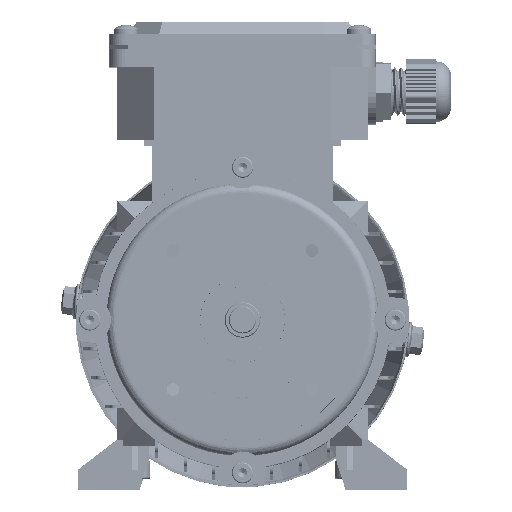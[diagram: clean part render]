
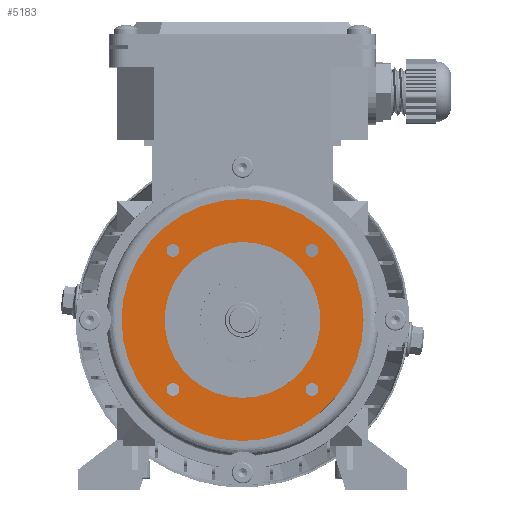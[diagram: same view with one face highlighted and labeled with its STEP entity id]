
A CAD part, top view. The second image highlights one B-rep face of the part: STEP entity #5183.
In plain terms, the highlighted planar face has unit normal (0, 0, 1).
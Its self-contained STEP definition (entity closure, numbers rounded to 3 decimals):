
#1494 = CIRCLE ( 'NONE', #99126, 2.1 ) ;
#1594 = VERTEX_POINT ( 'NONE', #66562 ) ;
#2495 = FACE_BOUND ( 'NONE', #78938, .T. ) ;
#2879 = CARTESIAN_POINT ( 'NONE',  ( 25.75, 0., 8. ) ) ;
#3184 = AXIS2_PLACEMENT_3D ( 'NONE', #69302, #6995, #79754 ) ;
#4220 = AXIS2_PLACEMENT_3D ( 'NONE', #103265, #40927, #113715 ) ;
#4970 = CIRCLE ( 'NONE', #29002, 25.75 ) ;
#5183 = ADVANCED_FACE ( 'NONE', ( #2495, #54474, #26873, #134337, #106603, #109867 ), #65141, .T. ) ;
#6355 = CARTESIAN_POINT ( 'NONE',  ( 0., 0., 8. ) ) ;
#6558 = CARTESIAN_POINT ( 'NONE',  ( -22.981, -22.981, 8. ) ) ;
#6938 = CIRCLE ( 'NONE', #24363, 25.75 ) ;
#6995 = DIRECTION ( 'NONE',  ( 0., 0., 1. ) ) ;
#7127 = EDGE_LOOP ( 'NONE', ( #108346, #114456 ) ) ;
#7908 = CIRCLE ( 'NONE', #61016, 2.1 ) ;
#8316 = CARTESIAN_POINT ( 'NONE',  ( 22.981, -22.981, 8. ) ) ;
#9097 = ORIENTED_EDGE ( 'NONE', *, *, #90234, .F. ) ;
#11600 = EDGE_CURVE ( 'NONE', #116968, #110063, #110086, .T. ) ;
#12910 = AXIS2_PLACEMENT_3D ( 'NONE', #50089, #122941, #60624 ) ;
#16110 = EDGE_CURVE ( 'NONE', #39242, #58556, #38285, .T. ) ;
#16787 = DIRECTION ( 'NONE',  ( 1., 0., 0. ) ) ;
#17004 = DIRECTION ( 'NONE',  ( 1., 0., 0. ) ) ;
#17647 = CARTESIAN_POINT ( 'NONE',  ( -22.981, -22.981, 8. ) ) ;
#18775 = DIRECTION ( 'NONE',  ( 1., 0., 0. ) ) ;
#20617 = ORIENTED_EDGE ( 'NONE', *, *, #97968, .F. ) ;
#20722 = CIRCLE ( 'NONE', #94222, 2.1 ) ;
#22278 = EDGE_LOOP ( 'NONE', ( #53289, #48872 ) ) ;
#22465 = ORIENTED_EDGE ( 'NONE', *, *, #84785, .F. ) ;
#22727 = EDGE_CURVE ( 'NONE', #1594, #114012, #7908, .T. ) ;
#24363 = AXIS2_PLACEMENT_3D ( 'NONE', #6355, #79123, #16787 ) ;
#24571 = CARTESIAN_POINT ( 'NONE',  ( 25.75, 0., 8. ) ) ;
#26873 = FACE_BOUND ( 'NONE', #119763, .T. ) ;
#26965 = CARTESIAN_POINT ( 'NONE',  ( 0., 0., 8. ) ) ;
#28112 = DIRECTION ( 'NONE',  ( 1., 0., 0. ) ) ;
#29002 = AXIS2_PLACEMENT_3D ( 'NONE', #26965, #99701, #37395 ) ;
#29915 = EDGE_CURVE ( 'NONE', #108041, #133633, #6938, .T. ) ;
#30388 = DIRECTION ( 'NONE',  ( 0., 0., 1. ) ) ;
#30400 = CIRCLE ( 'NONE', #98349, 40. ) ;
#31382 = CIRCLE ( 'NONE', #3184, 2.1 ) ;
#32056 = CARTESIAN_POINT ( 'NONE',  ( -25.75, 0., 8. ) ) ;
#32065 = DIRECTION ( 'NONE',  ( 0., 0., 1. ) ) ;
#35953 = CARTESIAN_POINT ( 'NONE',  ( -25.081, 22.981, 8. ) ) ;
#37052 = DIRECTION ( 'NONE',  ( 0., 0., 1. ) ) ;
#37395 = DIRECTION ( 'NONE',  ( 1., 0., 0. ) ) ;
#38001 = EDGE_CURVE ( 'NONE', #71090, #62284, #64298, .T. ) ;
#38285 = CIRCLE ( 'NONE', #55194, 2.1 ) ;
#39242 = VERTEX_POINT ( 'NONE', #108768 ) ;
#40927 = DIRECTION ( 'NONE',  ( 0., 0., 1. ) ) ;
#44641 = EDGE_LOOP ( 'NONE', ( #9097, #22465 ) ) ;
#44643 = DIRECTION ( 'NONE',  ( 0., 0., 1. ) ) ;
#45069 = ORIENTED_EDGE ( 'NONE', *, *, #16110, .F. ) ;
#48872 = ORIENTED_EDGE ( 'NONE', *, *, #22727, .F. ) ;
#50089 = CARTESIAN_POINT ( 'NONE',  ( 22.981, 22.981, 8. ) ) ;
#52618 = CARTESIAN_POINT ( 'NONE',  ( 0., 0., 8. ) ) ;
#53289 = ORIENTED_EDGE ( 'NONE', *, *, #98010, .F. ) ;
#54474 = FACE_BOUND ( 'NONE', #44641, .T. ) ;
#55194 = AXIS2_PLACEMENT_3D ( 'NONE', #6558, #79329, #17004 ) ;
#58556 = VERTEX_POINT ( 'NONE', #74306 ) ;
#60624 = DIRECTION ( 'NONE',  ( 1., 0., 0. ) ) ;
#61016 = AXIS2_PLACEMENT_3D ( 'NONE', #99349, #37052, #109836 ) ;
#62284 = VERTEX_POINT ( 'NONE', #86543 ) ;
#63151 = DIRECTION ( 'NONE',  ( 1., 0., 0. ) ) ;
#64298 = CIRCLE ( 'NONE', #114023, 40. ) ;
#65141 = PLANE ( 'NONE',  #103036 ) ;
#65898 = AXIS2_PLACEMENT_3D ( 'NONE', #8316, #81079, #18775 ) ;
#66004 = EDGE_CURVE ( 'NONE', #62284, #71090, #30400, .T. ) ;
#66562 = CARTESIAN_POINT ( 'NONE',  ( 20.881, -22.981, 8. ) ) ;
#69302 = CARTESIAN_POINT ( 'NONE',  ( -22.981, 22.981, 8. ) ) ;
#71090 = VERTEX_POINT ( 'NONE', #127598 ) ;
#74200 = CARTESIAN_POINT ( 'NONE',  ( 25.081, -22.981, 8. ) ) ;
#74306 = CARTESIAN_POINT ( 'NONE',  ( -20.881, -22.981, 8. ) ) ;
#74319 = ORIENTED_EDGE ( 'NONE', *, *, #127538, .F. ) ;
#74588 = CARTESIAN_POINT ( 'NONE',  ( -20.881, 22.981, 8. ) ) ;
#78938 = EDGE_LOOP ( 'NONE', ( #20617, #89826 ) ) ;
#79123 = DIRECTION ( 'NONE',  ( 0., 0., 1. ) ) ;
#79329 = DIRECTION ( 'NONE',  ( 0., 0., 1. ) ) ;
#79754 = DIRECTION ( 'NONE',  ( 1., 0., 0. ) ) ;
#81079 = DIRECTION ( 'NONE',  ( 0., 0., 1. ) ) ;
#84785 = EDGE_CURVE ( 'NONE', #123321, #126776, #120394, .T. ) ;
#85568 = ORIENTED_EDGE ( 'NONE', *, *, #95563, .F. ) ;
#86543 = CARTESIAN_POINT ( 'NONE',  ( 40., 0., 8. ) ) ;
#89826 = ORIENTED_EDGE ( 'NONE', *, *, #11600, .F. ) ;
#90234 = EDGE_CURVE ( 'NONE', #126776, #123321, #1494, .T. ) ;
#90391 = DIRECTION ( 'NONE',  ( 0., 0., 1. ) ) ;
#92675 = CARTESIAN_POINT ( 'NONE',  ( 0., 0., 8. ) ) ;
#94222 = AXIS2_PLACEMENT_3D ( 'NONE', #17647, #90391, #28112 ) ;
#94356 = CARTESIAN_POINT ( 'NONE',  ( 22.981, 22.981, 8. ) ) ;
#95563 = EDGE_CURVE ( 'NONE', #133633, #108041, #4970, .T. ) ;
#97690 = EDGE_LOOP ( 'NONE', ( #85568, #99397 ) ) ;
#97968 = EDGE_CURVE ( 'NONE', #110063, #116968, #31382, .T. ) ;
#98010 = EDGE_CURVE ( 'NONE', #114012, #1594, #107900, .T. ) ;
#98349 = AXIS2_PLACEMENT_3D ( 'NONE', #52618, #125460, #63151 ) ;
#99126 = AXIS2_PLACEMENT_3D ( 'NONE', #94356, #32065, #104861 ) ;
#99349 = CARTESIAN_POINT ( 'NONE',  ( 22.981, -22.981, 8. ) ) ;
#99397 = ORIENTED_EDGE ( 'NONE', *, *, #29915, .F. ) ;
#99701 = DIRECTION ( 'NONE',  ( 0., 0., 1. ) ) ;
#103036 = AXIS2_PLACEMENT_3D ( 'NONE', #2879, #44643, #117452 ) ;
#103161 = DIRECTION ( 'NONE',  ( 1., 0., 0. ) ) ;
#103265 = CARTESIAN_POINT ( 'NONE',  ( -22.981, 22.981, 8. ) ) ;
#104861 = DIRECTION ( 'NONE',  ( 1., 0., 0. ) ) ;
#106603 = FACE_OUTER_BOUND ( 'NONE', #7127, .T. ) ;
#107900 = CIRCLE ( 'NONE', #65898, 2.1 ) ;
#108041 = VERTEX_POINT ( 'NONE', #32056 ) ;
#108346 = ORIENTED_EDGE ( 'NONE', *, *, #66004, .T. ) ;
#108768 = CARTESIAN_POINT ( 'NONE',  ( -25.081, -22.981, 8. ) ) ;
#109836 = DIRECTION ( 'NONE',  ( 1., 0., 0. ) ) ;
#109867 = FACE_BOUND ( 'NONE', #97690, .T. ) ;
#110063 = VERTEX_POINT ( 'NONE', #74588 ) ;
#110086 = CIRCLE ( 'NONE', #4220, 2.1 ) ;
#113715 = DIRECTION ( 'NONE',  ( 1., 0., 0. ) ) ;
#114012 = VERTEX_POINT ( 'NONE', #74200 ) ;
#114023 = AXIS2_PLACEMENT_3D ( 'NONE', #92675, #30388, #103161 ) ;
#114456 = ORIENTED_EDGE ( 'NONE', *, *, #38001, .T. ) ;
#116968 = VERTEX_POINT ( 'NONE', #35953 ) ;
#117452 = DIRECTION ( 'NONE',  ( 1., 0., 0. ) ) ;
#119661 = CARTESIAN_POINT ( 'NONE',  ( 25.081, 22.981, 8. ) ) ;
#119763 = EDGE_LOOP ( 'NONE', ( #74319, #45069 ) ) ;
#120394 = CIRCLE ( 'NONE', #12910, 2.1 ) ;
#122941 = DIRECTION ( 'NONE',  ( 0., 0., 1. ) ) ;
#123321 = VERTEX_POINT ( 'NONE', #131745 ) ;
#125460 = DIRECTION ( 'NONE',  ( 0., 0., 1. ) ) ;
#126776 = VERTEX_POINT ( 'NONE', #119661 ) ;
#127538 = EDGE_CURVE ( 'NONE', #58556, #39242, #20722, .T. ) ;
#127598 = CARTESIAN_POINT ( 'NONE',  ( -40., 0., 8. ) ) ;
#131745 = CARTESIAN_POINT ( 'NONE',  ( 20.881, 22.981, 8. ) ) ;
#133633 = VERTEX_POINT ( 'NONE', #24571 ) ;
#134337 = FACE_BOUND ( 'NONE', #22278, .T. ) ;
